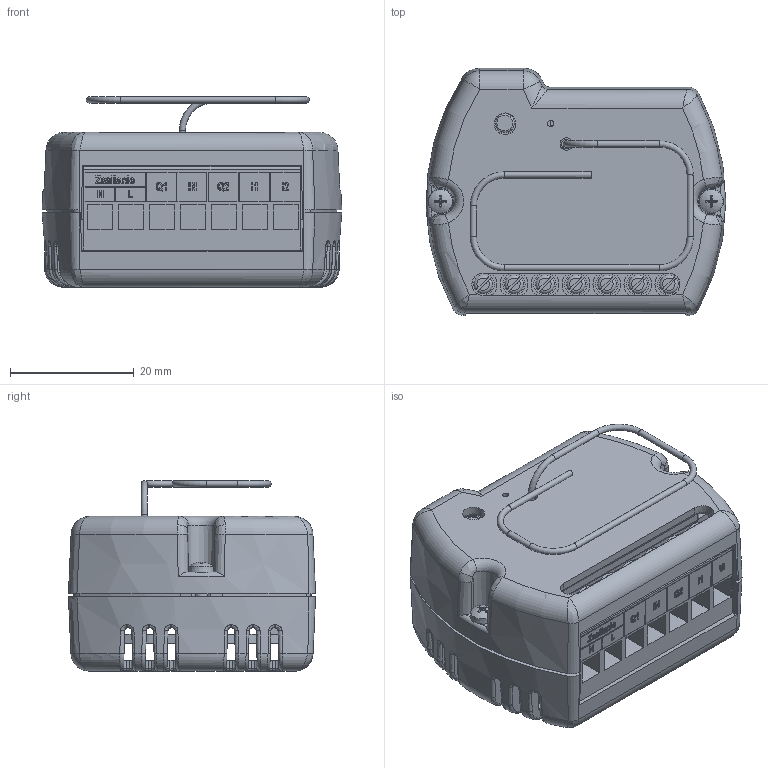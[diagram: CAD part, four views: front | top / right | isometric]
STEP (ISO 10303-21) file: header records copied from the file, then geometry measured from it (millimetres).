
FILE_DESCRIPTION(/* description */ (''),/* implementation_level */ '2;1');
FILE_NAME(/* name */ 'PPS-02.step',/* time_stamp */ '2026-02-06T11:24:05+01:00',/* author */ (''),/* organization */ (''),/* preprocessor_version */ 'ST-DEVELOPER v20.1',/* originating_system */ 'Autodesk Translation Framework v14.24.0.0',/* authorisation */ '');
FILE_SCHEMA (('AUTOMOTIVE_DESIGN { 1 0 10303 214 3 1 1 }'));
Products named in the file (133): Przekaźnik do puszki1; Plytka dolna1; Łaczka; SWITCH 6X6X3,2; Gora_cewka3; Spod_cewka3; ST-1011_2_1_E; PCB Component; Board; RFM22B_S1_D; Body3; Body4; Body5; Body6; Body7; Body8; Body9; Body10; Body11; Body12; Body13; Body14; Body15; Body16; Body17; Body18; Body19; Body20; Body21; Body22; Body23; Body24; Body25; Body26; Body27; Body28; Body29; Body30; Body31; Body32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
Assembly tree (147 placements, depth 5):
  Przekaźnik do puszki1
    Plytka dolna1
    Łaczka
    SWITCH 6X6X3,2
    Gora_cewka3
    Spod_cewka3
    ST-1011_2_1_E
      PCB Component
        Board
        100n  x4
        10k  x3
        RFM22B_S1_D
          Body3
          Body4
          Body5
          Body6
          Body7
          Body8
          Body9
          Body10
          Body11
          Body12
          Body13
          Body14
          Body15
          Body16
          Body17
          Body18
          Body19
          Body20
          Body21
          Body22
          Body23
          Body24
          Body25
          Body26
          Body27
          Body28
          Body29
          Body30
          Body31
          Body32
          Body33
          Body34
          Body35
          Body36
          Body37
          Body38
          Body39
          Body40
          Body41
          Body42
          Body43
          Body44
          Body45
          Body46
          Body47
          Body48
          Body49
          Body50
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Bounding box: 48.38 x 39.9 x 30.74 mm (x, y, z)
Volume: 18182.1 mm3; surface area: 23462 mm2
Topology: 156 solids, 157 shells, 4396 faces, 10861 edges, 6753 vertices
Faces by surface type: plane 2417, cylinder 1020, sphere 382, bspline 335, torus 121, cone 121
Full cylindrical faces by diameter (mm): 0.4 x4, 0.406 x11, 0.5 x74, 0.6 x1, 0.9 x6, 1 x17, 1.5 x1, 2.2 x2, 3.1 x1, 3.5 x1, 3.6 x7, 4.5 x7
Entity records: 138816 total; most frequent: CARTESIAN_POINT 33233, ORIENTED_EDGE 20956, DIRECTION 20889, EDGE_CURVE 10480, AXIS2_PLACEMENT_3D 6986, LINE 6917, VECTOR 6917, VERTEX_POINT 6577
